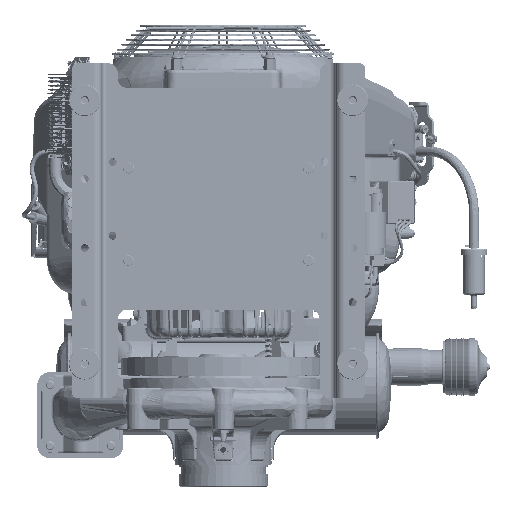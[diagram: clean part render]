
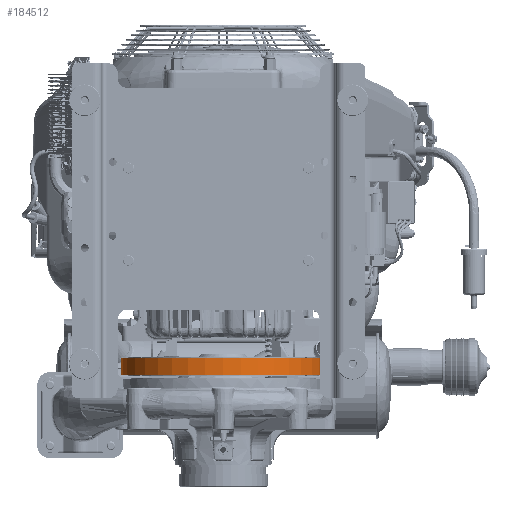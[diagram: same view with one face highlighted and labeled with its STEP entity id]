
A CAD part, front view. The second image highlights one B-rep face of the part: STEP entity #184512.
In plain terms, the highlighted cylindrical face has radius 131.686 mm (diameter 263.373 mm), a partial arc.
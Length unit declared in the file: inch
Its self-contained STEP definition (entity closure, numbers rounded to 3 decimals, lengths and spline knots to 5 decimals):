
#5615 = EDGE_CURVE ( 'NONE', #226303, #503234, #452724, .T. ) ;
#7585 = DIRECTION ( 'NONE',  ( 0., 0., 1. ) ) ;
#44326 = EDGE_CURVE ( 'NONE', #485948, #226303, #479812, .T. ) ;
#69468 = CARTESIAN_POINT ( 'NONE',  ( -5.1845, 0., -2.48197 ) ) ;
#78693 = DIRECTION ( 'NONE',  ( 0., 0., 1. ) ) ;
#88069 = VECTOR ( 'NONE', #497168, 39.37008 ) ;
#98950 = CARTESIAN_POINT ( 'NONE',  ( 0., 0., -2.48197 ) ) ;
#131751 = ORIENTED_EDGE ( 'NONE', *, *, #44326, .F. ) ;
#175867 = VERTEX_POINT ( 'NONE', #497600 ) ;
#184512 = ADVANCED_FACE ( 'NONE', ( #683415 ), #636784, .T. ) ;
#207411 = DIRECTION ( 'NONE',  ( -1., 0., 0. ) ) ;
#226303 = VERTEX_POINT ( 'NONE', #682863 ) ;
#265477 = DIRECTION ( 'NONE',  ( 0., 0., 1. ) ) ;
#292644 = EDGE_CURVE ( 'NONE', #175867, #503234, #326860, .T. ) ;
#314798 = DIRECTION ( 'NONE',  ( -1., 0., 0. ) ) ;
#326860 = LINE ( 'NONE', #748626, #88069 ) ;
#360007 = CARTESIAN_POINT ( 'NONE',  ( -5.1845, 0., -5.23101 ) ) ;
#372868 = CARTESIAN_POINT ( 'NONE',  ( 0., 0., -4.35601 ) ) ;
#382859 = CARTESIAN_POINT ( 'NONE',  ( 5.1845, 0., -4.35601 ) ) ;
#439965 = AXIS2_PLACEMENT_3D ( 'NONE', #372868, #78693, #314798 ) ;
#452724 = CIRCLE ( 'NONE', #439965, 5.1845 ) ;
#458947 = EDGE_LOOP ( 'NONE', ( #528266, #746275, #681366, #131751 ) ) ;
#465370 = AXIS2_PLACEMENT_3D ( 'NONE', #98950, #265477, #207411 ) ;
#479812 = LINE ( 'NONE', #69468, #487210 ) ;
#485948 = VERTEX_POINT ( 'NONE', #360007 ) ;
#487210 = VECTOR ( 'NONE', #7585, 39.37008 ) ;
#497168 = DIRECTION ( 'NONE',  ( 0., 0., 1. ) ) ;
#497600 = CARTESIAN_POINT ( 'NONE',  ( 5.1845, 0., -5.23101 ) ) ;
#503234 = VERTEX_POINT ( 'NONE', #382859 ) ;
#528266 = ORIENTED_EDGE ( 'NONE', *, *, #609904, .T. ) ;
#540524 = DIRECTION ( 'NONE',  ( -1., 0., 0. ) ) ;
#587144 = DIRECTION ( 'NONE',  ( 0., 0., 1. ) ) ;
#598570 = CARTESIAN_POINT ( 'NONE',  ( 0., 0., -5.23101 ) ) ;
#609904 = EDGE_CURVE ( 'NONE', #485948, #175867, #690694, .T. ) ;
#636784 = CYLINDRICAL_SURFACE ( 'NONE', #465370, 5.1845 ) ;
#681366 = ORIENTED_EDGE ( 'NONE', *, *, #5615, .F. ) ;
#682863 = CARTESIAN_POINT ( 'NONE',  ( -5.1845, 0., -4.35601 ) ) ;
#683415 = FACE_OUTER_BOUND ( 'NONE', #458947, .T. ) ;
#690694 = CIRCLE ( 'NONE', #702849, 5.1845 ) ;
#702849 = AXIS2_PLACEMENT_3D ( 'NONE', #598570, #587144, #540524 ) ;
#746275 = ORIENTED_EDGE ( 'NONE', *, *, #292644, .T. ) ;
#748626 = CARTESIAN_POINT ( 'NONE',  ( 5.1845, 0., -2.48197 ) ) ;
